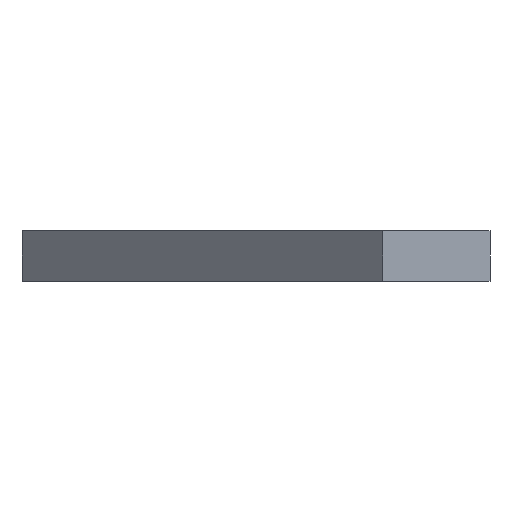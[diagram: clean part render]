
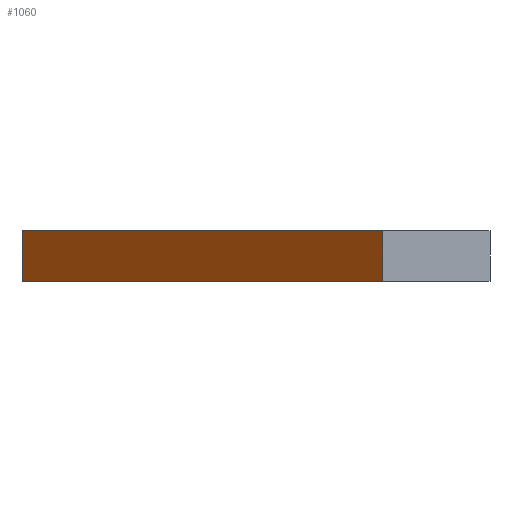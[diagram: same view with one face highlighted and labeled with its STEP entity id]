
A CAD part, left-side view. The second image highlights one B-rep face of the part: STEP entity #1060.
In plain terms, the highlighted planar face has unit normal (-0.703, 0.711, 0).
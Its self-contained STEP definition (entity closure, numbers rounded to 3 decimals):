
#203 = LINE ( 'NONE', #601, #770 ) ;
#332 = LINE ( 'NONE', #526, #1008 ) ;
#526 = CARTESIAN_POINT ( 'NONE',  ( -10.715, 10.827, 0. ) ) ;
#544 = ORIENTED_EDGE ( 'NONE', *, *, #1098, .T. ) ;
#550 = DIRECTION ( 'NONE',  ( -0.703, 0.711, 0. ) ) ;
#579 = VECTOR ( 'NONE', #1108, 1000. ) ;
#601 = CARTESIAN_POINT ( 'NONE',  ( -10.715, 10.827, 10. ) ) ;
#636 = CARTESIAN_POINT ( 'NONE',  ( 0., 21.431, 10. ) ) ;
#678 = ORIENTED_EDGE ( 'NONE', *, *, #949, .F. ) ;
#707 = EDGE_CURVE ( 'NONE', #2022, #1318, #332, .T. ) ;
#770 = VECTOR ( 'NONE', #1600, 1000. ) ;
#886 = ORIENTED_EDGE ( 'NONE', *, *, #707, .F. ) ;
#949 = EDGE_CURVE ( 'NONE', #2505, #2022, #1066, .T. ) ;
#982 = ORIENTED_EDGE ( 'NONE', *, *, #1607, .T. ) ;
#1008 = VECTOR ( 'NONE', #1752, 1000. ) ;
#1060 = ADVANCED_FACE ( 'NONE', ( #1517 ), #1731, .T. ) ;
#1066 = LINE ( 'NONE', #2077, #2595 ) ;
#1098 = EDGE_CURVE ( 'NONE', #1898, #1318, #2549, .T. ) ;
#1108 = DIRECTION ( 'NONE',  ( 0., 0., -1. ) ) ;
#1121 = CARTESIAN_POINT ( 'NONE',  ( 72.863, 93.539, 10. ) ) ;
#1250 = DIRECTION ( 'NONE',  ( 0., 0., -1. ) ) ;
#1318 = VERTEX_POINT ( 'NONE', #1419 ) ;
#1353 = EDGE_LOOP ( 'NONE', ( #886, #678, #982, #544 ) ) ;
#1419 = CARTESIAN_POINT ( 'NONE',  ( 72.863, 93.539, 0. ) ) ;
#1517 = FACE_OUTER_BOUND ( 'NONE', #1353, .T. ) ;
#1600 = DIRECTION ( 'NONE',  ( 0.711, 0.703, 0. ) ) ;
#1607 = EDGE_CURVE ( 'NONE', #2505, #1898, #203, .T. ) ;
#1731 = PLANE ( 'NONE',  #2063 ) ;
#1752 = DIRECTION ( 'NONE',  ( 0.711, 0.703, 0. ) ) ;
#1898 = VERTEX_POINT ( 'NONE', #2187 ) ;
#1932 = DIRECTION ( 'NONE',  ( -0.711, -0.703, 0. ) ) ;
#2022 = VERTEX_POINT ( 'NONE', #2631 ) ;
#2063 = AXIS2_PLACEMENT_3D ( 'NONE', #2522, #550, #1932 ) ;
#2077 = CARTESIAN_POINT ( 'NONE',  ( 0., 21.431, 10. ) ) ;
#2187 = CARTESIAN_POINT ( 'NONE',  ( 72.863, 93.539, 10. ) ) ;
#2505 = VERTEX_POINT ( 'NONE', #636 ) ;
#2522 = CARTESIAN_POINT ( 'NONE',  ( -10.715, 10.827, 10. ) ) ;
#2549 = LINE ( 'NONE', #1121, #579 ) ;
#2595 = VECTOR ( 'NONE', #1250, 1000. ) ;
#2631 = CARTESIAN_POINT ( 'NONE',  ( 0., 21.431, 0. ) ) ;
